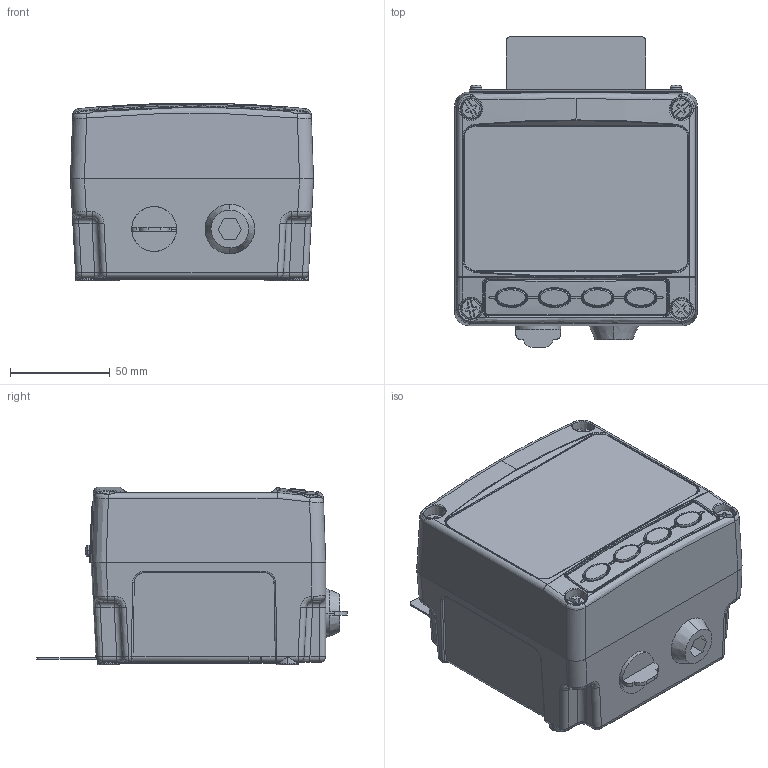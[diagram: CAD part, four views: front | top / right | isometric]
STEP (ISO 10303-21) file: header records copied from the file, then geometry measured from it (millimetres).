
FILE_DESCRIPTION (( 'STEP AP214' ), '1' );
FILE_NAME ('XX4G.STEP', '2019-06-03T14:50:58', ( '' ), ( '' ), 'SwSTEP 2.0', 'SolidWorks 2018', '' );
FILE_SCHEMA (( 'AUTOMOTIVE_DESIGN' ));
Length unit declared in the file: millimetre
Products named in the file (2): XX4G
Bounding box: 122 x 155.84 x 89.2 mm (x, y, z)
Volume: 396140.8 mm3; surface area: 183618.6 mm2
Topology: 19 solids, 19 shells, 2224 faces, 5494 edges, 3386 vertices
Faces by surface type: bspline 633, cylinder 575, plane 495, cone 252, torus 182, sphere 87
Entity records: 153760 total; most frequent: CARTESIAN_POINT 81662, ORIENTED_EDGE 10952, DIRECTION 8694, EDGE_CURVE 5476, AXIS2_PLACEMENT_3D 3439, VERTEX_POINT 3386, EDGE_LOOP 2368, UNCERTAINTY_MEASURE_WITH_UNIT 2245
